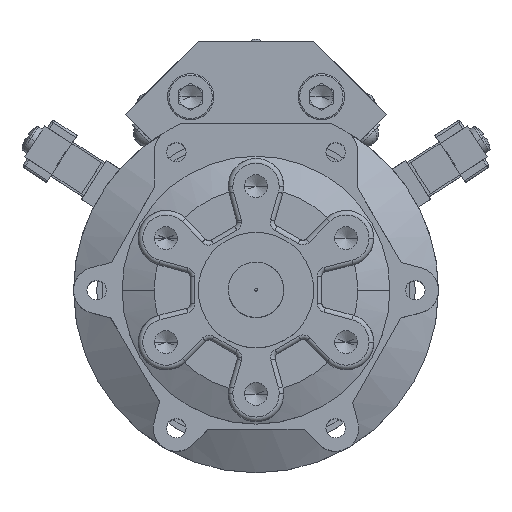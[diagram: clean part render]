
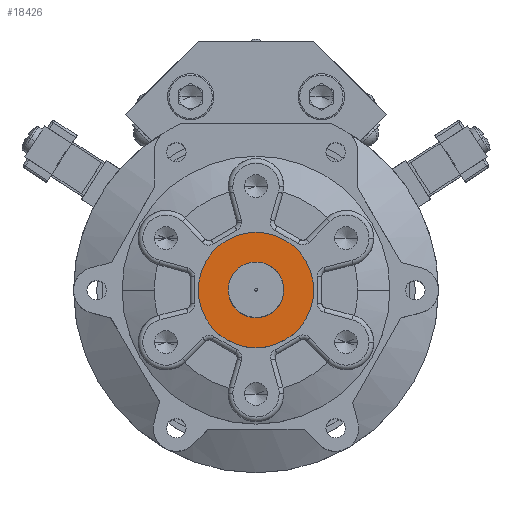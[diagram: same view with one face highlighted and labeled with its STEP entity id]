
A CAD part, top view. The second image highlights one B-rep face of the part: STEP entity #18426.
In plain terms, the highlighted planar face has unit normal (0, 0, 1).
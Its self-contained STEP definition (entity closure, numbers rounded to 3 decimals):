
#1320 = ORIENTED_EDGE ( 'NONE', *, *, #32665, .F. ) ;
#1368 = EDGE_CURVE ( 'NONE', #3232, #2723, #23996, .T. ) ;
#2723 = VERTEX_POINT ( 'NONE', #9678 ) ;
#3132 = AXIS2_PLACEMENT_3D ( 'NONE', #25732, #28296, #31372 ) ;
#3232 = VERTEX_POINT ( 'NONE', #19197 ) ;
#3550 = AXIS2_PLACEMENT_3D ( 'NONE', #12836, #17921, #20737 ) ;
#4614 = CARTESIAN_POINT ( 'NONE',  ( -6., 0., 0. ) ) ;
#4716 = CIRCLE ( 'NONE', #3132, 6. ) ;
#5152 = CARTESIAN_POINT ( 'NONE',  ( 0., 0., 0. ) ) ;
#6326 = FACE_OUTER_BOUND ( 'NONE', #15713, .T. ) ;
#8187 = DIRECTION ( 'NONE',  ( 1., 0., 0. ) ) ;
#9678 = CARTESIAN_POINT ( 'NONE',  ( -12.5, 0., 0. ) ) ;
#12836 = CARTESIAN_POINT ( 'NONE',  ( 0., 0., 0. ) ) ;
#13173 = VERTEX_POINT ( 'NONE', #4614 ) ;
#13796 = CARTESIAN_POINT ( 'NONE',  ( 0., 0., 0. ) ) ;
#14465 = EDGE_LOOP ( 'NONE', ( #20772, #1320 ) ) ;
#15713 = EDGE_LOOP ( 'NONE', ( #21724, #31226 ) ) ;
#16200 = PLANE ( 'NONE',  #17616 ) ;
#16515 = DIRECTION ( 'NONE',  ( 0., 0., 1. ) ) ;
#17616 = AXIS2_PLACEMENT_3D ( 'NONE', #5152, #24322, #8187 ) ;
#17921 = DIRECTION ( 'NONE',  ( 0., 0., 1. ) ) ;
#18009 = CIRCLE ( 'NONE', #32528, 12.5 ) ;
#18012 = CARTESIAN_POINT ( 'NONE',  ( 0., 0., 0. ) ) ;
#18335 = VERTEX_POINT ( 'NONE', #18791 ) ;
#18426 = ADVANCED_FACE ( 'NONE', ( #21494, #6326 ), #16200, .T. ) ;
#18791 = CARTESIAN_POINT ( 'NONE',  ( 6., 0., 0. ) ) ;
#19197 = CARTESIAN_POINT ( 'NONE',  ( 12.5, 0., 0. ) ) ;
#20037 = EDGE_CURVE ( 'NONE', #2723, #3232, #18009, .T. ) ;
#20737 = DIRECTION ( 'NONE',  ( 1., 0., 0. ) ) ;
#20772 = ORIENTED_EDGE ( 'NONE', *, *, #25651, .F. ) ;
#21494 = FACE_BOUND ( 'NONE', #14465, .T. ) ;
#21724 = ORIENTED_EDGE ( 'NONE', *, *, #1368, .T. ) ;
#23420 = DIRECTION ( 'NONE',  ( 1., 0., 0. ) ) ;
#23996 = CIRCLE ( 'NONE', #25155, 12.5 ) ;
#24322 = DIRECTION ( 'NONE',  ( 0., 0., 1. ) ) ;
#24751 = DIRECTION ( 'NONE',  ( 1., 0., 0. ) ) ;
#25155 = AXIS2_PLACEMENT_3D ( 'NONE', #18012, #31294, #23420 ) ;
#25651 = EDGE_CURVE ( 'NONE', #18335, #13173, #4716, .T. ) ;
#25732 = CARTESIAN_POINT ( 'NONE',  ( 0., 0., 0. ) ) ;
#28296 = DIRECTION ( 'NONE',  ( 0., 0., 1. ) ) ;
#29574 = CIRCLE ( 'NONE', #3550, 6. ) ;
#31226 = ORIENTED_EDGE ( 'NONE', *, *, #20037, .T. ) ;
#31294 = DIRECTION ( 'NONE',  ( 0., 0., 1. ) ) ;
#31372 = DIRECTION ( 'NONE',  ( 1., 0., 0. ) ) ;
#32528 = AXIS2_PLACEMENT_3D ( 'NONE', #13796, #16515, #24751 ) ;
#32665 = EDGE_CURVE ( 'NONE', #13173, #18335, #29574, .T. ) ;
